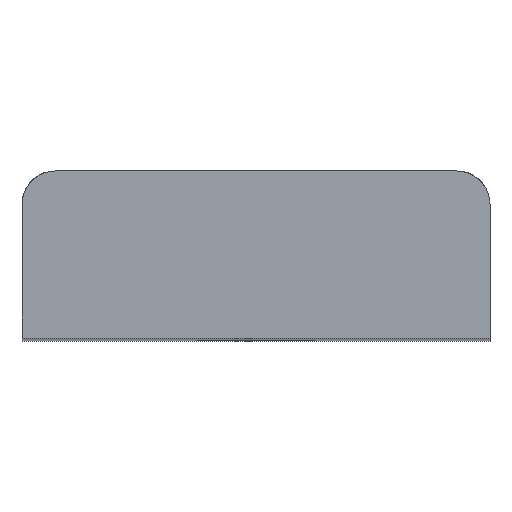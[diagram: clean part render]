
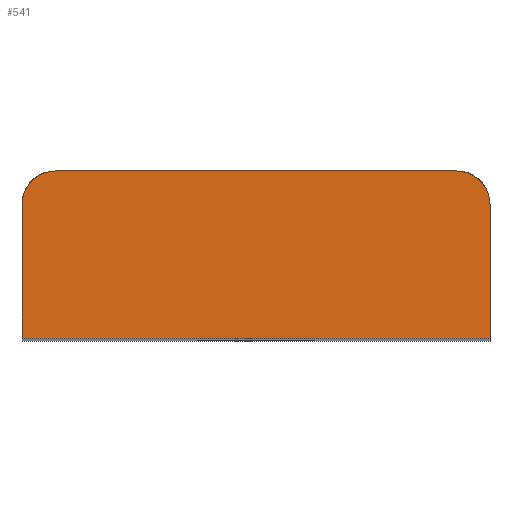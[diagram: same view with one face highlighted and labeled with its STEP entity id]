
A CAD part, top view. The second image highlights one B-rep face of the part: STEP entity #541.
In plain terms, the highlighted face is a extrusion surface.
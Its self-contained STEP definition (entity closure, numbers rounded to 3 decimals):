
#480=CARTESIAN_POINT('Control Point',(-14.,-5.,50.)) ;
#481=CARTESIAN_POINT('Control Point',(14.066,-5.,50.)) ;
#486=CARTESIAN_POINT('Control Point',(-12.,5.,50.)) ;
#487=CARTESIAN_POINT('Control Point',(-12.628,5.,50.)) ;
#488=CARTESIAN_POINT('Control Point',(-13.257,4.754,50.)) ;
#489=CARTESIAN_POINT('Control Point',(-13.754,4.257,50.)) ;
#490=CARTESIAN_POINT('Control Point',(-14.,3.628,50.)) ;
#491=CARTESIAN_POINT('Control Point',(-14.,3.,50.)) ;
#492=CARTESIAN_POINT('Vertex',(-12.,5.,50.)) ;
#494=CARTESIAN_POINT('Vertex',(-14.,3.,50.)) ;
#497=CARTESIAN_POINT('Line Origine',(-14.,0.,50.)) ;
#501=CARTESIAN_POINT('Vertex',(-14.,-5.,50.)) ;
#504=CARTESIAN_POINT('Line Origine',(0.,-5.,50.)) ;
#508=CARTESIAN_POINT('Vertex',(14.,-5.,50.)) ;
#511=CARTESIAN_POINT('Line Origine',(14.,0.,50.)) ;
#515=CARTESIAN_POINT('Vertex',(14.,3.,50.)) ;
#519=CARTESIAN_POINT('Control Point',(14.,3.,50.)) ;
#520=CARTESIAN_POINT('Control Point',(14.,3.628,50.)) ;
#521=CARTESIAN_POINT('Control Point',(13.754,4.257,50.)) ;
#522=CARTESIAN_POINT('Control Point',(13.257,4.754,50.)) ;
#523=CARTESIAN_POINT('Control Point',(12.628,5.,50.)) ;
#524=CARTESIAN_POINT('Control Point',(12.,5.,50.)) ;
#525=CARTESIAN_POINT('Vertex',(12.,5.,50.)) ;
#528=CARTESIAN_POINT('Line Origine',(0.,5.,50.)) ;
#482=DIRECTION('Vector Direction',(0.,1.,0.)) ;
#498=DIRECTION('Vector Direction',(0.,1.,0.)) ;
#505=DIRECTION('Vector Direction',(1.,0.,0.)) ;
#512=DIRECTION('Vector Direction',(0.,1.,0.)) ;
#529=DIRECTION('Vector Direction',(1.,0.,0.)) ;
#534=ORIENTED_EDGE('',*,*,#496,.T.) ;
#535=ORIENTED_EDGE('',*,*,#503,.T.) ;
#536=ORIENTED_EDGE('',*,*,#510,.T.) ;
#537=ORIENTED_EDGE('',*,*,#517,.T.) ;
#538=ORIENTED_EDGE('',*,*,#527,.T.) ;
#539=ORIENTED_EDGE('',*,*,#532,.T.) ;
#483=VECTOR('Extrusion Surface Vector',#482,1.) ;
#499=VECTOR('Line Direction',#498,1.) ;
#506=VECTOR('Line Direction',#505,1.) ;
#513=VECTOR('Line Direction',#512,1.) ;
#530=VECTOR('Line Direction',#529,1.) ;
#541=ADVANCED_FACE('Superficie.7',(#540),#484,.T.) ;
#479=B_SPLINE_CURVE_WITH_KNOTS('',1,(#480,#481),.UNSPECIFIED.,.F.,.U.,(2,2),(-14.,14.066),.UNSPECIFIED.) ;
#485=B_SPLINE_CURVE_WITH_KNOTS('',5,(#486,#487,#488,#489,#490,#491),.UNSPECIFIED.,.F.,.U.,(6,6),(0.,4.443),.UNSPECIFIED.) ;
#518=B_SPLINE_CURVE_WITH_KNOTS('',5,(#519,#520,#521,#522,#523,#524),.UNSPECIFIED.,.F.,.U.,(6,6),(0.,4.443),.UNSPECIFIED.) ;
#496=EDGE_CURVE('',#493,#495,#485,.T.) ;
#503=EDGE_CURVE('',#495,#502,#500,.F.) ;
#510=EDGE_CURVE('',#502,#509,#507,.T.) ;
#517=EDGE_CURVE('',#509,#516,#514,.T.) ;
#527=EDGE_CURVE('',#516,#526,#518,.T.) ;
#532=EDGE_CURVE('',#526,#493,#531,.F.) ;
#533=EDGE_LOOP('',(#534,#535,#536,#537,#538,#539)) ;
#540=FACE_OUTER_BOUND('',#533,.T.) ;
#500=LINE('Line',#497,#499) ;
#507=LINE('Line',#504,#506) ;
#514=LINE('Line',#511,#513) ;
#531=LINE('Line',#528,#530) ;
#484=SURFACE_OF_LINEAR_EXTRUSION('generated tabulated cylinder',#479,#483) ;
#493=VERTEX_POINT('',#492) ;
#495=VERTEX_POINT('',#494) ;
#502=VERTEX_POINT('',#501) ;
#509=VERTEX_POINT('',#508) ;
#516=VERTEX_POINT('',#515) ;
#526=VERTEX_POINT('',#525) ;
